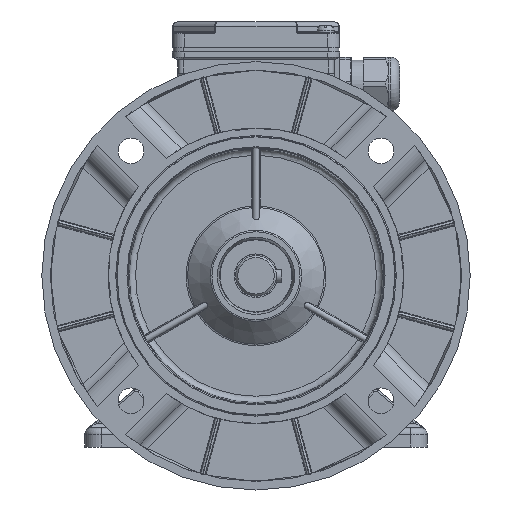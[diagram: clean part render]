
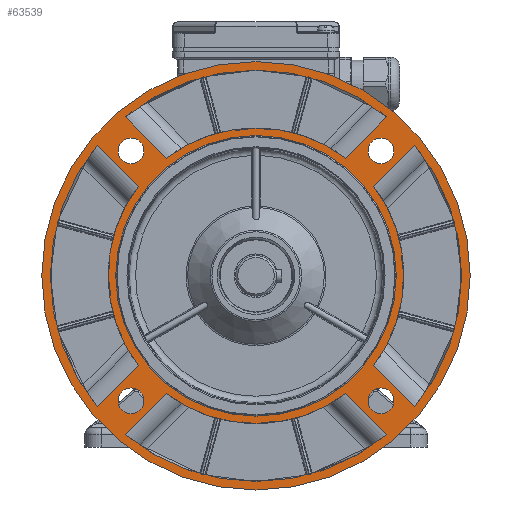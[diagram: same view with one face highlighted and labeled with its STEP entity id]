
A CAD part, left-side view. The second image highlights one B-rep face of the part: STEP entity #63539.
In plain terms, the highlighted planar face has unit normal (-1, 0, 0).
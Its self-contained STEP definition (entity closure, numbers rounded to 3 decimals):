
#2753=LINE('',#95450,#6420);
#2754=LINE('',#95455,#6421);
#2755=LINE('',#95458,#6422);
#2756=LINE('',#95463,#6423);
#2757=LINE('',#95468,#6424);
#2758=LINE('',#95473,#6425);
#2759=LINE('',#95476,#6426);
#2760=LINE('',#95481,#6427);
#6420=VECTOR('',#75134,1000.);
#6421=VECTOR('',#75137,1000.);
#6422=VECTOR('',#75140,1000.);
#6423=VECTOR('',#75143,1000.);
#6424=VECTOR('',#75148,1000.);
#6425=VECTOR('',#75151,1000.);
#6426=VECTOR('',#75154,1000.);
#6427=VECTOR('',#75157,1000.);
#9618=PLANE('',#67050);
#16196=ORIENTED_EDGE('',*,*,#27434,.T.);
#16197=ORIENTED_EDGE('',*,*,#27435,.T.);
#16198=ORIENTED_EDGE('',*,*,#27436,.T.);
#16199=ORIENTED_EDGE('',*,*,#27437,.T.);
#16200=ORIENTED_EDGE('',*,*,#27438,.T.);
#16201=ORIENTED_EDGE('',*,*,#27439,.T.);
#16202=ORIENTED_EDGE('',*,*,#27440,.T.);
#16203=ORIENTED_EDGE('',*,*,#27441,.T.);
#16204=ORIENTED_EDGE('',*,*,#27396,.F.);
#16205=ORIENTED_EDGE('',*,*,#27395,.F.);
#16206=ORIENTED_EDGE('',*,*,#27394,.F.);
#16207=ORIENTED_EDGE('',*,*,#27393,.F.);
#16208=ORIENTED_EDGE('',*,*,#27442,.T.);
#16209=ORIENTED_EDGE('',*,*,#27433,.T.);
#16210=ORIENTED_EDGE('',*,*,#27443,.T.);
#16211=ORIENTED_EDGE('',*,*,#27444,.T.);
#16212=ORIENTED_EDGE('',*,*,#27445,.T.);
#16213=ORIENTED_EDGE('',*,*,#27446,.T.);
#16214=ORIENTED_EDGE('',*,*,#27447,.T.);
#16215=ORIENTED_EDGE('',*,*,#27448,.T.);
#16216=ORIENTED_EDGE('',*,*,#27449,.T.);
#16217=ORIENTED_EDGE('',*,*,#27450,.T.);
#27393=EDGE_CURVE('',#33460,#33460,#37111,.T.);
#27394=EDGE_CURVE('',#33461,#33461,#37112,.T.);
#27395=EDGE_CURVE('',#33462,#33462,#37113,.T.);
#27396=EDGE_CURVE('',#33463,#33463,#37114,.T.);
#27433=EDGE_CURVE('',#33484,#33484,#37124,.T.);
#27434=EDGE_CURVE('',#33485,#33486,#2753,.T.);
#27435=EDGE_CURVE('',#33486,#33487,#37125,.T.);
#27436=EDGE_CURVE('',#33487,#33488,#2754,.T.);
#27437=EDGE_CURVE('',#33488,#33485,#37126,.T.);
#27438=EDGE_CURVE('',#33489,#33490,#2755,.T.);
#27439=EDGE_CURVE('',#33490,#33491,#37127,.T.);
#27440=EDGE_CURVE('',#33491,#33492,#2756,.T.);
#27441=EDGE_CURVE('',#33492,#33489,#37128,.T.);
#27442=EDGE_CURVE('',#33493,#33493,#37129,.F.);
#27443=EDGE_CURVE('',#33494,#33495,#2757,.T.);
#27444=EDGE_CURVE('',#33495,#33496,#37130,.T.);
#27445=EDGE_CURVE('',#33496,#33497,#2758,.T.);
#27446=EDGE_CURVE('',#33497,#33494,#37131,.T.);
#27447=EDGE_CURVE('',#33498,#33499,#2759,.T.);
#27448=EDGE_CURVE('',#33499,#33500,#37132,.T.);
#27449=EDGE_CURVE('',#33500,#33501,#2760,.T.);
#27450=EDGE_CURVE('',#33501,#33498,#37133,.T.);
#33460=VERTEX_POINT('',#95292);
#33461=VERTEX_POINT('',#95295);
#33462=VERTEX_POINT('',#95298);
#33463=VERTEX_POINT('',#95301);
#33484=VERTEX_POINT('',#95448);
#33485=VERTEX_POINT('',#95451);
#33486=VERTEX_POINT('',#95452);
#33487=VERTEX_POINT('',#95454);
#33488=VERTEX_POINT('',#95456);
#33489=VERTEX_POINT('',#95459);
#33490=VERTEX_POINT('',#95460);
#33491=VERTEX_POINT('',#95462);
#33492=VERTEX_POINT('',#95464);
#33493=VERTEX_POINT('',#95467);
#33494=VERTEX_POINT('',#95469);
#33495=VERTEX_POINT('',#95470);
#33496=VERTEX_POINT('',#95472);
#33497=VERTEX_POINT('',#95474);
#33498=VERTEX_POINT('',#95477);
#33499=VERTEX_POINT('',#95478);
#33500=VERTEX_POINT('',#95480);
#33501=VERTEX_POINT('',#95482);
#37111=CIRCLE('',#67014,6.);
#37112=CIRCLE('',#67016,6.);
#37113=CIRCLE('',#67018,6.);
#37114=CIRCLE('',#67020,6.);
#37124=CIRCLE('',#67049,100.);
#37125=CIRCLE('',#67051,69.);
#37126=CIRCLE('',#67052,96.);
#37127=CIRCLE('',#67053,69.);
#37128=CIRCLE('',#67054,96.);
#37129=CIRCLE('',#67055,65.5);
#37130=CIRCLE('',#67056,69.);
#37131=CIRCLE('',#67057,96.);
#37132=CIRCLE('',#67058,69.);
#37133=CIRCLE('',#67059,96.);
#39556=EDGE_LOOP('',(#16196,#16197,#16198,#16199));
#39557=EDGE_LOOP('',(#16200,#16201,#16202,#16203));
#39558=EDGE_LOOP('',(#16204));
#39559=EDGE_LOOP('',(#16205));
#39560=EDGE_LOOP('',(#16206));
#39561=EDGE_LOOP('',(#16207));
#39562=EDGE_LOOP('',(#16208));
#39563=EDGE_LOOP('',(#16209));
#39564=EDGE_LOOP('',(#16210,#16211,#16212,#16213));
#39565=EDGE_LOOP('',(#16214,#16215,#16216,#16217));
#42666=FACE_BOUND('',#39556,.T.);
#42667=FACE_BOUND('',#39557,.T.);
#42668=FACE_BOUND('',#39558,.T.);
#42669=FACE_BOUND('',#39559,.T.);
#42670=FACE_BOUND('',#39560,.T.);
#42671=FACE_BOUND('',#39561,.T.);
#42672=FACE_BOUND('',#39562,.T.);
#42673=FACE_BOUND('',#39563,.T.);
#42674=FACE_BOUND('',#39564,.T.);
#42675=FACE_BOUND('',#39565,.T.);
#63539=ADVANCED_FACE('',(#42666,#42667,#42668,#42669,#42670,#42671,#42672,
#42673,#42674,#42675),#9618,.T.);
#67014=AXIS2_PLACEMENT_3D('',#95291,#75044,#75045);
#67016=AXIS2_PLACEMENT_3D('',#95294,#75048,#75049);
#67018=AXIS2_PLACEMENT_3D('',#95297,#75052,#75053);
#67020=AXIS2_PLACEMENT_3D('',#95300,#75056,#75057);
#67049=AXIS2_PLACEMENT_3D('',#95447,#75130,#75131);
#67050=AXIS2_PLACEMENT_3D('',#95449,#75132,#75133);
#67051=AXIS2_PLACEMENT_3D('',#95453,#75135,#75136);
#67052=AXIS2_PLACEMENT_3D('',#95457,#75138,#75139);
#67053=AXIS2_PLACEMENT_3D('',#95461,#75141,#75142);
#67054=AXIS2_PLACEMENT_3D('',#95465,#75144,#75145);
#67055=AXIS2_PLACEMENT_3D('',#95466,#75146,#75147);
#67056=AXIS2_PLACEMENT_3D('',#95471,#75149,#75150);
#67057=AXIS2_PLACEMENT_3D('',#95475,#75152,#75153);
#67058=AXIS2_PLACEMENT_3D('',#95479,#75155,#75156);
#67059=AXIS2_PLACEMENT_3D('',#95483,#75158,#75159);
#75044=DIRECTION('',(-1.,0.,0.));
#75045=DIRECTION('',(0.,-1.,0.));
#75048=DIRECTION('',(-1.,0.,0.));
#75049=DIRECTION('',(0.,-1.,0.));
#75052=DIRECTION('',(-1.,0.,0.));
#75053=DIRECTION('',(0.,-1.,0.));
#75056=DIRECTION('',(-1.,0.,0.));
#75057=DIRECTION('',(0.,-1.,0.));
#75130=DIRECTION('',(-1.,0.,0.));
#75131=DIRECTION('',(0.,0.,-1.));
#75132=DIRECTION('',(-1.,0.,0.));
#75133=DIRECTION('',(0.,0.,-1.));
#75134=DIRECTION('',(0.,-0.707,-0.707));
#75135=DIRECTION('',(-1.,0.,0.));
#75136=DIRECTION('',(0.,-1.,0.));
#75137=DIRECTION('',(0.,0.707,-0.707));
#75138=DIRECTION('',(1.,0.,0.));
#75139=DIRECTION('',(0.,-1.,0.));
#75140=DIRECTION('',(0.,0.707,0.707));
#75141=DIRECTION('',(-1.,0.,0.));
#75142=DIRECTION('',(0.,1.,0.));
#75143=DIRECTION('',(0.,-0.707,0.707));
#75144=DIRECTION('',(1.,0.,0.));
#75145=DIRECTION('',(0.,1.,0.));
#75146=DIRECTION('',(-1.,0.,0.));
#75147=DIRECTION('',(0.,0.,-1.));
#75148=DIRECTION('',(0.,-0.707,0.707));
#75149=DIRECTION('',(-1.,0.,0.));
#75150=DIRECTION('',(0.,0.,1.));
#75151=DIRECTION('',(0.,-0.707,-0.707));
#75152=DIRECTION('',(1.,0.,0.));
#75153=DIRECTION('',(0.,0.,1.));
#75154=DIRECTION('',(0.,0.707,-0.707));
#75155=DIRECTION('',(-1.,0.,0.));
#75156=DIRECTION('',(0.,0.,-1.));
#75157=DIRECTION('',(0.,0.707,0.707));
#75158=DIRECTION('',(1.,0.,0.));
#75159=DIRECTION('',(0.,0.,-1.));
#95291=CARTESIAN_POINT('',(-44.8,58.336,58.336));
#95292=CARTESIAN_POINT('',(-44.8,52.336,58.336));
#95294=CARTESIAN_POINT('',(-44.8,-58.336,58.336));
#95295=CARTESIAN_POINT('',(-44.8,-64.336,58.336));
#95297=CARTESIAN_POINT('',(-44.8,-58.336,-58.336));
#95298=CARTESIAN_POINT('',(-44.8,-64.336,-58.336));
#95300=CARTESIAN_POINT('',(-44.8,58.336,-58.336));
#95301=CARTESIAN_POINT('',(-44.8,52.336,-58.336));
#95447=CARTESIAN_POINT('',(-44.8,0.,0.));
#95448=CARTESIAN_POINT('',(-44.8,0.,-100.));
#95449=CARTESIAN_POINT('',(-44.8,0.,-65.));
#95450=CARTESIAN_POINT('',(-44.8,53.605,40.403));
#95451=CARTESIAN_POINT('',(-44.8,74.161,60.96));
#95452=CARTESIAN_POINT('',(-44.8,54.943,41.741));
#95453=CARTESIAN_POINT('',(-44.8,0.,0.));
#95454=CARTESIAN_POINT('',(-44.8,54.943,-41.741));
#95455=CARTESIAN_POINT('',(-44.8,73.211,-60.009));
#95456=CARTESIAN_POINT('',(-44.8,74.161,-60.96));
#95457=CARTESIAN_POINT('',(-44.8,0.,0.));
#95458=CARTESIAN_POINT('',(-44.8,-53.605,-40.403));
#95459=CARTESIAN_POINT('',(-44.8,-74.161,-60.96));
#95460=CARTESIAN_POINT('',(-44.8,-54.943,-41.741));
#95461=CARTESIAN_POINT('',(-44.8,0.,0.));
#95462=CARTESIAN_POINT('',(-44.8,-54.943,41.741));
#95463=CARTESIAN_POINT('',(-44.8,-73.211,60.009));
#95464=CARTESIAN_POINT('',(-44.8,-74.161,60.96));
#95465=CARTESIAN_POINT('',(-44.8,0.,0.));
#95466=CARTESIAN_POINT('',(-44.8,0.,0.));
#95467=CARTESIAN_POINT('',(-44.8,0.,-65.5));
#95468=CARTESIAN_POINT('',(-44.8,40.403,-53.605));
#95469=CARTESIAN_POINT('',(-44.8,60.96,-74.161));
#95470=CARTESIAN_POINT('',(-44.8,41.741,-54.943));
#95471=CARTESIAN_POINT('',(-44.8,0.,0.));
#95472=CARTESIAN_POINT('',(-44.8,-41.741,-54.943));
#95473=CARTESIAN_POINT('',(-44.8,-60.009,-73.211));
#95474=CARTESIAN_POINT('',(-44.8,-60.96,-74.161));
#95475=CARTESIAN_POINT('',(-44.8,0.,0.));
#95476=CARTESIAN_POINT('',(-44.8,-40.403,53.605));
#95477=CARTESIAN_POINT('',(-44.8,-60.96,74.161));
#95478=CARTESIAN_POINT('',(-44.8,-41.741,54.943));
#95479=CARTESIAN_POINT('',(-44.8,0.,0.));
#95480=CARTESIAN_POINT('',(-44.8,41.741,54.943));
#95481=CARTESIAN_POINT('',(-44.8,60.009,73.211));
#95482=CARTESIAN_POINT('',(-44.8,60.96,74.161));
#95483=CARTESIAN_POINT('',(-44.8,0.,0.));
